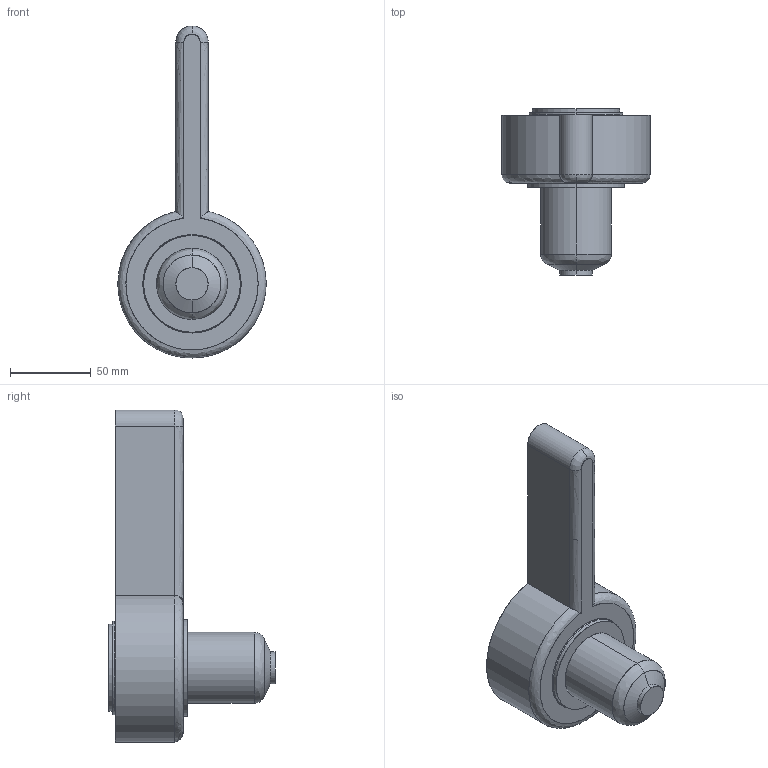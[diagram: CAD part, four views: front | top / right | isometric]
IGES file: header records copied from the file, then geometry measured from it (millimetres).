
Start section: SolidWorks IGES file using analytic representation for surfaces
Global section: file name: C:\Documents and Settings\ws-20\Desktop\TEM\Sede UGER6602-S-A C-54 L-101.IGS; native system: SolidWorks 2012; preprocessor: SolidWorks 2012; author: ws-20; date: 120417.105426; units: millimetre
Bounding box: 91.99 x 103.14 x 206 mm (x, y, z)
Surface area: 45743.7 mm2 (no closed solid volume)
Topology: 0 solids, 0 shells, 34 faces, 788 edges, 788 vertices
Faces by surface type: revolution 21, bspline 13
